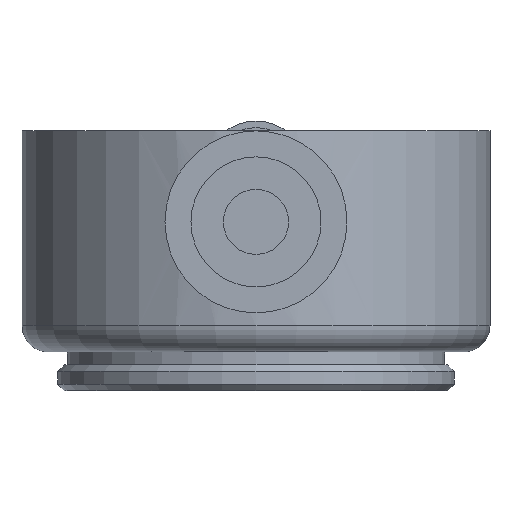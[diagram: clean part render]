
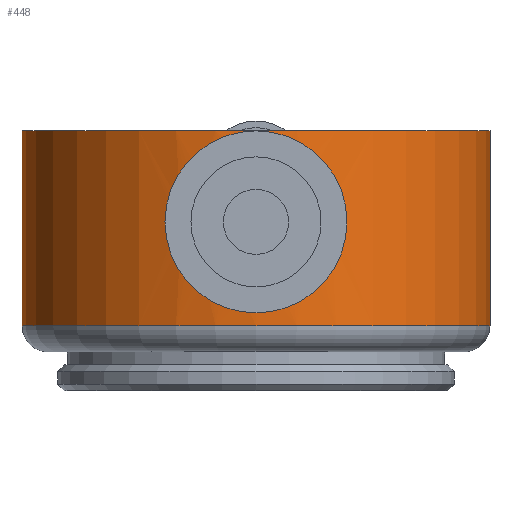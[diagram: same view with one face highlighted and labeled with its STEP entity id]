
A CAD part, left-side view. The second image highlights one B-rep face of the part: STEP entity #448.
In plain terms, the highlighted cylindrical face has radius 18 mm (diameter 36 mm), a full revolution.
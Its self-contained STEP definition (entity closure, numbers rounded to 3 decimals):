
#15=B_SPLINE_CURVE_WITH_KNOTS('',3,(#750,#751,#752,#753,#754,#755,#756,
#757,#758,#759,#760,#761,#762,#763,#764,#765,#766,#767),.UNSPECIFIED.,.F.,
 .F.,(4,2,2,2,2,2,2,2,4),(0.191,0.238,0.286,
0.334,0.381,0.429,0.476,
0.524,0.572),.UNSPECIFIED.);
#16=B_SPLINE_CURVE_WITH_KNOTS('',3,(#769,#770,#771,#772,#773,#774,#775,
#776,#777,#778),.UNSPECIFIED.,.F.,.F.,(4,2,2,2,4),(0.762,0.81,
0.858,0.905,0.953),.UNSPECIFIED.);
#18=B_SPLINE_CURVE_WITH_KNOTS('',3,(#815,#816,#817,#818,#819,#820,#821,
#822,#823,#824),.UNSPECIFIED.,.F.,.F.,(4,2,2,2,4),(0.572,0.619,
0.667,0.715,0.762),.UNSPECIFIED.);
#19=B_SPLINE_CURVE_WITH_KNOTS('',3,(#828,#829,#830,#831,#832,#833,#834,
#835,#836,#837,#838,#839,#840,#841,#842,#843,#844,#845,#846),
 .UNSPECIFIED.,.F.,.F.,(4,2,2,2,3,2,2,2,4),(2.735,2.963,
3.191,3.419,3.647,3.875,4.102,
4.33,4.558),.UNSPECIFIED.);
#20=B_SPLINE_CURVE_WITH_KNOTS('',3,(#849,#850,#851,#852,#853,#854,#855,
#856,#857,#858,#859,#860,#861,#862,#863,#864,#865,#866),.UNSPECIFIED.,.F.,
 .F.,(4,2,2,2,2,2,2,2,4),(0.912,1.139,1.367,
1.595,1.823,2.051,2.279,2.507,
2.735),.UNSPECIFIED.);
#35=FACE_BOUND('',#166,.T.);
#63=CYLINDRICAL_SURFACE('',#520,18.);
#78=LINE('',#890,#97);
#79=LINE('',#891,#98);
#80=LINE('',#892,#99);
#97=VECTOR('',#641,10.);
#98=VECTOR('',#642,18.);
#99=VECTOR('',#643,10.);
#129=FACE_OUTER_BOUND('',#165,.T.);
#165=EDGE_LOOP('',(#374,#375,#376,#377,#378,#379,#380,#381,#382,#383));
#166=EDGE_LOOP('',(#384,#385,#386));
#204=CIRCLE('',#517,18.);
#207=CIRCLE('',#521,18.);
#230=VERTEX_POINT('',#748);
#231=VERTEX_POINT('',#749);
#232=VERTEX_POINT('',#768);
#234=VERTEX_POINT('',#826);
#235=VERTEX_POINT('',#827);
#236=VERTEX_POINT('',#869);
#238=VERTEX_POINT('',#873);
#240=VERTEX_POINT('',#884);
#270=EDGE_CURVE('',#230,#231,#15,.T.);
#271=EDGE_CURVE('',#232,#230,#16,.T.);
#274=EDGE_CURVE('',#231,#232,#18,.T.);
#275=EDGE_CURVE('',#234,#235,#19,.T.);
#277=EDGE_CURVE('',#235,#234,#20,.T.);
#286=EDGE_CURVE('',#240,#240,#204,.T.);
#289=EDGE_CURVE('',#238,#234,#78,.T.);
#290=EDGE_CURVE('',#238,#240,#79,.T.);
#291=EDGE_CURVE('',#235,#236,#80,.T.);
#292=EDGE_CURVE('',#236,#236,#207,.T.);
#374=ORIENTED_EDGE('',*,*,#277,.T.);
#375=ORIENTED_EDGE('',*,*,#289,.F.);
#376=ORIENTED_EDGE('',*,*,#290,.T.);
#377=ORIENTED_EDGE('',*,*,#286,.F.);
#378=ORIENTED_EDGE('',*,*,#290,.F.);
#379=ORIENTED_EDGE('',*,*,#289,.T.);
#380=ORIENTED_EDGE('',*,*,#275,.T.);
#381=ORIENTED_EDGE('',*,*,#291,.T.);
#382=ORIENTED_EDGE('',*,*,#292,.F.);
#383=ORIENTED_EDGE('',*,*,#291,.F.);
#384=ORIENTED_EDGE('',*,*,#270,.T.);
#385=ORIENTED_EDGE('',*,*,#274,.T.);
#386=ORIENTED_EDGE('',*,*,#271,.T.);
#448=ADVANCED_FACE('',(#129,#35),#63,.T.);
#517=AXIS2_PLACEMENT_3D('',#885,#633,#634);
#520=AXIS2_PLACEMENT_3D('',#889,#639,#640);
#521=AXIS2_PLACEMENT_3D('',#893,#644,#645);
#633=DIRECTION('center_axis',(0.,0.,-1.));
#634=DIRECTION('ref_axis',(1.,0.,0.));
#639=DIRECTION('center_axis',(0.,0.,1.));
#640=DIRECTION('ref_axis',(1.,0.,0.));
#641=DIRECTION('',(0.,0.,1.));
#642=DIRECTION('',(0.,0.,-1.));
#643=DIRECTION('',(0.,0.,1.));
#644=DIRECTION('center_axis',(0.,0.,1.));
#645=DIRECTION('ref_axis',(1.,0.,0.));
#748=CARTESIAN_POINT('',(18.,0.,15.014));
#749=CARTESIAN_POINT('',(18.,0.,12.485));
#750=CARTESIAN_POINT('Ctrl Pts',(18.,0.,15.014));
#751=CARTESIAN_POINT('Ctrl Pts',(18.,0.159,15.014));
#752=CARTESIAN_POINT('Ctrl Pts',(17.998,0.328,14.983));
#753=CARTESIAN_POINT('Ctrl Pts',(17.989,0.64,14.854));
#754=CARTESIAN_POINT('Ctrl Pts',(17.983,0.782,14.756));
#755=CARTESIAN_POINT('Ctrl Pts',(17.972,1.006,14.532));
#756=CARTESIAN_POINT('Ctrl Pts',(17.966,1.104,14.39));
#757=CARTESIAN_POINT('Ctrl Pts',(17.958,1.233,14.078));
#758=CARTESIAN_POINT('Ctrl Pts',(17.956,1.265,13.909));
#759=CARTESIAN_POINT('Ctrl Pts',(17.956,1.265,13.591));
#760=CARTESIAN_POINT('Ctrl Pts',(17.958,1.233,13.422));
#761=CARTESIAN_POINT('Ctrl Pts',(17.966,1.104,13.11));
#762=CARTESIAN_POINT('Ctrl Pts',(17.972,1.006,12.968));
#763=CARTESIAN_POINT('Ctrl Pts',(17.983,0.782,12.744));
#764=CARTESIAN_POINT('Ctrl Pts',(17.989,0.64,12.646));
#765=CARTESIAN_POINT('Ctrl Pts',(17.998,0.328,12.517));
#766=CARTESIAN_POINT('Ctrl Pts',(18.,0.159,12.485));
#767=CARTESIAN_POINT('Ctrl Pts',(18.,0.,12.485));
#768=CARTESIAN_POINT('',(17.956,-1.265,13.75));
#769=CARTESIAN_POINT('Ctrl Pts',(17.956,-1.265,13.75));
#770=CARTESIAN_POINT('Ctrl Pts',(17.956,-1.265,13.909));
#771=CARTESIAN_POINT('Ctrl Pts',(17.958,-1.233,14.078));
#772=CARTESIAN_POINT('Ctrl Pts',(17.966,-1.104,14.39));
#773=CARTESIAN_POINT('Ctrl Pts',(17.972,-1.006,14.532));
#774=CARTESIAN_POINT('Ctrl Pts',(17.983,-0.782,14.756));
#775=CARTESIAN_POINT('Ctrl Pts',(17.989,-0.64,14.854));
#776=CARTESIAN_POINT('Ctrl Pts',(17.998,-0.328,14.983));
#777=CARTESIAN_POINT('Ctrl Pts',(18.,-0.159,15.014));
#778=CARTESIAN_POINT('Ctrl Pts',(18.,0.,15.014));
#815=CARTESIAN_POINT('Ctrl Pts',(18.,0.,12.485));
#816=CARTESIAN_POINT('Ctrl Pts',(18.,-0.159,12.485));
#817=CARTESIAN_POINT('Ctrl Pts',(17.998,-0.328,12.517));
#818=CARTESIAN_POINT('Ctrl Pts',(17.989,-0.64,12.646));
#819=CARTESIAN_POINT('Ctrl Pts',(17.983,-0.782,12.744));
#820=CARTESIAN_POINT('Ctrl Pts',(17.972,-1.006,12.968));
#821=CARTESIAN_POINT('Ctrl Pts',(17.966,-1.104,13.11));
#822=CARTESIAN_POINT('Ctrl Pts',(17.958,-1.233,13.422));
#823=CARTESIAN_POINT('Ctrl Pts',(17.956,-1.265,13.591));
#824=CARTESIAN_POINT('Ctrl Pts',(17.956,-1.265,13.75));
#826=CARTESIAN_POINT('',(-18.,0.,4.));
#827=CARTESIAN_POINT('',(-18.,0.,16.));
#828=CARTESIAN_POINT('Ctrl Pts',(-18.,0.,4.));
#829=CARTESIAN_POINT('Ctrl Pts',(-18.,0.76,4.));
#830=CARTESIAN_POINT('Ctrl Pts',(-17.947,1.566,4.153));
#831=CARTESIAN_POINT('Ctrl Pts',(-17.757,3.042,4.767));
#832=CARTESIAN_POINT('Ctrl Pts',(-17.621,3.713,5.228));
#833=CARTESIAN_POINT('Ctrl Pts',(-17.364,4.772,6.287));
#834=CARTESIAN_POINT('Ctrl Pts',(-17.226,5.233,6.958));
#835=CARTESIAN_POINT('Ctrl Pts',(-17.027,5.847,8.434));
#836=CARTESIAN_POINT('Ctrl Pts',(-16.971,6.,9.24));
#837=CARTESIAN_POINT('Ctrl Pts',(-16.971,6.,10.));
#838=CARTESIAN_POINT('Ctrl Pts',(-16.971,6.,10.76));
#839=CARTESIAN_POINT('Ctrl Pts',(-17.027,5.847,11.566));
#840=CARTESIAN_POINT('Ctrl Pts',(-17.226,5.233,13.042));
#841=CARTESIAN_POINT('Ctrl Pts',(-17.364,4.772,13.713));
#842=CARTESIAN_POINT('Ctrl Pts',(-17.621,3.713,14.772));
#843=CARTESIAN_POINT('Ctrl Pts',(-17.757,3.042,15.233));
#844=CARTESIAN_POINT('Ctrl Pts',(-17.947,1.566,15.847));
#845=CARTESIAN_POINT('Ctrl Pts',(-18.,0.76,16.));
#846=CARTESIAN_POINT('Ctrl Pts',(-18.,0.,16.));
#849=CARTESIAN_POINT('Ctrl Pts',(-18.,0.,16.));
#850=CARTESIAN_POINT('Ctrl Pts',(-18.,-0.76,16.));
#851=CARTESIAN_POINT('Ctrl Pts',(-17.947,-1.566,15.847));
#852=CARTESIAN_POINT('Ctrl Pts',(-17.757,-3.042,15.233));
#853=CARTESIAN_POINT('Ctrl Pts',(-17.621,-3.713,14.772));
#854=CARTESIAN_POINT('Ctrl Pts',(-17.364,-4.772,13.713));
#855=CARTESIAN_POINT('Ctrl Pts',(-17.226,-5.233,13.042));
#856=CARTESIAN_POINT('Ctrl Pts',(-17.027,-5.847,11.566));
#857=CARTESIAN_POINT('Ctrl Pts',(-16.971,-6.,10.76));
#858=CARTESIAN_POINT('Ctrl Pts',(-16.971,-6.,9.24));
#859=CARTESIAN_POINT('Ctrl Pts',(-17.027,-5.847,8.434));
#860=CARTESIAN_POINT('Ctrl Pts',(-17.226,-5.233,6.958));
#861=CARTESIAN_POINT('Ctrl Pts',(-17.364,-4.772,6.287));
#862=CARTESIAN_POINT('Ctrl Pts',(-17.621,-3.713,5.228));
#863=CARTESIAN_POINT('Ctrl Pts',(-17.757,-3.042,4.767));
#864=CARTESIAN_POINT('Ctrl Pts',(-17.947,-1.566,4.153));
#865=CARTESIAN_POINT('Ctrl Pts',(-18.,-0.76,4.));
#866=CARTESIAN_POINT('Ctrl Pts',(-18.,0.,4.));
#869=CARTESIAN_POINT('',(-18.,0.,17.));
#873=CARTESIAN_POINT('',(-18.,0.,3.));
#884=CARTESIAN_POINT('',(-18.,0.,2.));
#885=CARTESIAN_POINT('Origin',(0.,0.,2.));
#889=CARTESIAN_POINT('Origin',(0.,0.,0.));
#890=CARTESIAN_POINT('',(-18.,0.,0.));
#891=CARTESIAN_POINT('',(-18.,0.,0.));
#892=CARTESIAN_POINT('',(-18.,0.,0.));
#893=CARTESIAN_POINT('Origin',(0.,0.,17.));
